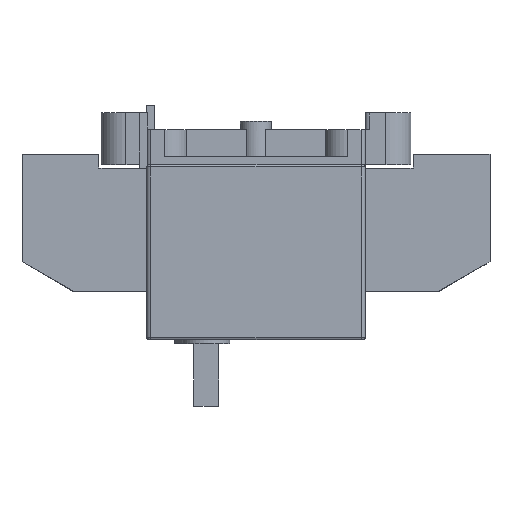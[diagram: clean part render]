
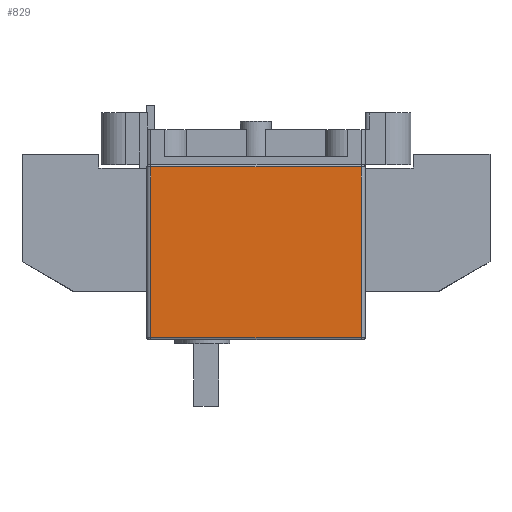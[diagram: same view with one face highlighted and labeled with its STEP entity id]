
A CAD part, left-side view. The second image highlights one B-rep face of the part: STEP entity #829.
In plain terms, the highlighted planar face has unit normal (-1, 0, 0).
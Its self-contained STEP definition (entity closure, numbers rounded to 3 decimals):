
#302=PLANE('',#8497);
#829=ADVANCED_FACE('',(#1313),#302,.F.);
#1313=FACE_OUTER_BOUND('',#1749,.T.);
#1749=EDGE_LOOP('',(#3795,#3796,#3797,#3798));
#3795=ORIENTED_EDGE('',*,*,#6041,.T.);
#3796=ORIENTED_EDGE('',*,*,#6007,.T.);
#3797=ORIENTED_EDGE('',*,*,#6042,.F.);
#3798=ORIENTED_EDGE('',*,*,#6031,.T.);
#4967=VERTEX_POINT('',#12695);
#4971=VERTEX_POINT('',#12704);
#4986=VERTEX_POINT('',#12759);
#4990=VERTEX_POINT('',#12786);
#6007=EDGE_CURVE('',#4971,#4967,#6977,.T.);
#6031=EDGE_CURVE('',#4986,#4990,#6984,.T.);
#6041=EDGE_CURVE('',#4990,#4971,#6991,.T.);
#6042=EDGE_CURVE('',#4986,#4967,#6992,.T.);
#6977=LINE('',#12707,#7863);
#6984=LINE('',#12787,#7870);
#6991=LINE('',#12803,#7877);
#6992=LINE('',#12805,#7878);
#7863=VECTOR('',#10347,1.);
#7870=VECTOR('',#10400,1.);
#7877=VECTOR('',#10423,1.);
#7878=VECTOR('',#10426,1.);
#8497=AXIS2_PLACEMENT_3D('',#12806,#10427,#10428);
#10347=DIRECTION('',(0.,1.,0.));
#10400=DIRECTION('',(0.,-1.,0.));
#10423=DIRECTION('',(0.,0.,1.));
#10426=DIRECTION('',(0.,0.,1.));
#10427=DIRECTION('',(1.,0.,0.));
#10428=DIRECTION('',(0.,1.,0.));
#12695=CARTESIAN_POINT('',(-197.5,50.5,-1.));
#12704=CARTESIAN_POINT('',(-197.5,-50.5,-1.));
#12707=CARTESIAN_POINT('',(-197.5,-50.5,-1.));
#12759=CARTESIAN_POINT('',(-197.5,50.5,-83.));
#12786=CARTESIAN_POINT('',(-197.5,-50.5,-83.));
#12787=CARTESIAN_POINT('',(-197.5,-50.5,-83.));
#12803=CARTESIAN_POINT('',(-197.5,-50.5,-84.));
#12805=CARTESIAN_POINT('',(-197.5,50.5,-84.));
#12806=CARTESIAN_POINT('',(-197.5,-50.5,-84.));
